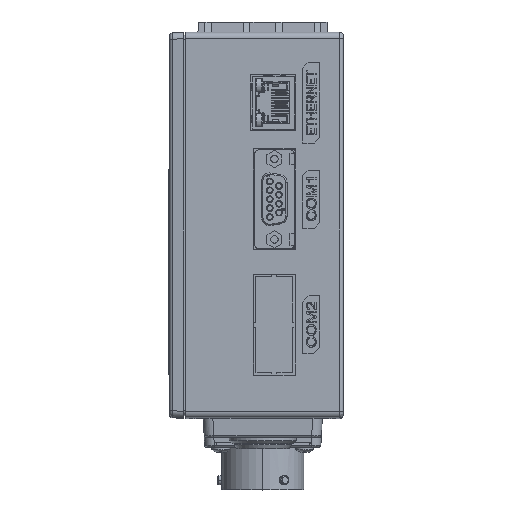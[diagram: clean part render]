
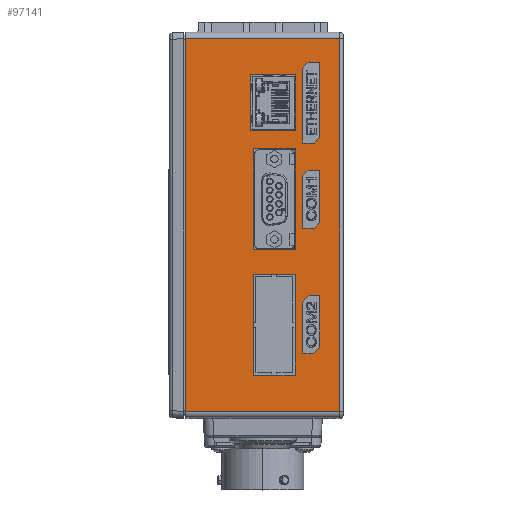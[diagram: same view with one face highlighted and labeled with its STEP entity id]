
A CAD part, top view. The second image highlights one B-rep face of the part: STEP entity #97141.
In plain terms, the highlighted planar face has unit normal (0, 0, 1).
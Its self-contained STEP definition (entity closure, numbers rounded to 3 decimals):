
#6719=DIRECTION('',(0.,-1.,0.));
#6720=VECTOR('',#6719,116.);
#6721=CARTESIAN_POINT('',(26.,58.,0.));
#6722=LINE('',#6721,#6720);
#6723=DIRECTION('',(1.,0.,0.));
#6724=VECTOR('',#6723,48.);
#6725=CARTESIAN_POINT('',(-22.,-58.,0.));
#6726=LINE('',#6725,#6724);
#6727=DIRECTION('',(0.,1.,0.));
#6728=VECTOR('',#6727,116.);
#6729=CARTESIAN_POINT('',(-22.,-58.,0.));
#6730=LINE('',#6729,#6728);
#6731=DIRECTION('',(-1.,0.,0.));
#6732=VECTOR('',#6731,48.);
#6733=CARTESIAN_POINT('',(26.,58.,0.));
#6734=LINE('',#6733,#6732);
#6735=DIRECTION('',(0.,1.,0.));
#6736=VECTOR('',#6735,31.4);
#6737=CARTESIAN_POINT('',(-0.9,-46.7,0.));
#6738=LINE('',#6737,#6736);
#6739=DIRECTION('',(-1.,0.,0.));
#6740=VECTOR('',#6739,13.);
#6741=CARTESIAN_POINT('',(12.1,-46.7,0.));
#6742=LINE('',#6741,#6740);
#6743=DIRECTION('',(0.,-1.,0.));
#6744=VECTOR('',#6743,31.4);
#6745=CARTESIAN_POINT('',(12.1,-15.3,0.));
#6746=LINE('',#6745,#6744);
#6747=DIRECTION('',(1.,0.,0.));
#6748=VECTOR('',#6747,13.);
#6749=CARTESIAN_POINT('',(-0.9,-15.3,0.));
#6750=LINE('',#6749,#6748);
#6751=DIRECTION('',(0.,1.,0.));
#6752=VECTOR('',#6751,31.4);
#6753=CARTESIAN_POINT('',(-0.9,-7.7,0.));
#6754=LINE('',#6753,#6752);
#6755=DIRECTION('',(-1.,0.,0.));
#6756=VECTOR('',#6755,13.);
#6757=CARTESIAN_POINT('',(12.1,-7.7,0.));
#6758=LINE('',#6757,#6756);
#6759=DIRECTION('',(0.,-1.,0.));
#6760=VECTOR('',#6759,31.4);
#6761=CARTESIAN_POINT('',(12.1,23.7,0.));
#6762=LINE('',#6761,#6760);
#6763=DIRECTION('',(1.,0.,0.));
#6764=VECTOR('',#6763,13.);
#6765=CARTESIAN_POINT('',(-0.9,23.7,0.));
#6766=LINE('',#6765,#6764);
#6767=DIRECTION('',(1.,0.,0.));
#6768=VECTOR('',#6767,13.9);
#6769=CARTESIAN_POINT('',(-1.8,46.7,0.));
#6770=LINE('',#6769,#6768);
#6771=DIRECTION('',(0.,1.,0.));
#6772=VECTOR('',#6771,17.4);
#6773=CARTESIAN_POINT('',(-1.8,29.3,0.));
#6774=LINE('',#6773,#6772);
#6775=DIRECTION('',(-1.,0.,0.));
#6776=VECTOR('',#6775,13.9);
#6777=CARTESIAN_POINT('',(12.1,29.3,0.));
#6778=LINE('',#6777,#6776);
#6779=DIRECTION('',(0.,-1.,0.));
#6780=VECTOR('',#6779,17.4);
#6781=CARTESIAN_POINT('',(12.1,46.7,0.));
#6782=LINE('',#6781,#6780);
#6783=DIRECTION('',(1.,0.,0.));
#6784=VECTOR('',#6783,3.7);
#6785=CARTESIAN_POINT('',(14.4,-1.,0.));
#6786=LINE('',#6785,#6784);
#6787=DIRECTION('',(0.,1.,0.));
#6788=VECTOR('',#6787,16.3);
#6789=CARTESIAN_POINT('',(19.8,0.7,0.));
#6790=LINE('',#6789,#6788);
#6791=DIRECTION('',(-1.,0.,0.));
#6792=VECTOR('',#6791,3.7);
#6793=CARTESIAN_POINT('',(19.8,17.,0.));
#6794=LINE('',#6793,#6792);
#6795=DIRECTION('',(0.,-1.,0.));
#6796=VECTOR('',#6795,16.3);
#6797=CARTESIAN_POINT('',(14.4,15.3,0.));
#6798=LINE('',#6797,#6796);
#6799=DIRECTION('',(1.,0.,0.));
#6800=VECTOR('',#6799,3.7);
#6801=CARTESIAN_POINT('',(14.4,25.5,0.));
#6802=LINE('',#6801,#6800);
#6803=DIRECTION('',(0.,1.,0.));
#6804=VECTOR('',#6803,23.3);
#6805=CARTESIAN_POINT('',(19.8,27.2,0.));
#6806=LINE('',#6805,#6804);
#6807=DIRECTION('',(-1.,0.,0.));
#6808=VECTOR('',#6807,3.7);
#6809=CARTESIAN_POINT('',(19.8,50.5,0.));
#6810=LINE('',#6809,#6808);
#6811=DIRECTION('',(0.,-1.,0.));
#6812=VECTOR('',#6811,23.3);
#6813=CARTESIAN_POINT('',(14.4,48.8,0.));
#6814=LINE('',#6813,#6812);
#6815=DIRECTION('',(-1.,0.,0.));
#6816=VECTOR('',#6815,3.4);
#6817=CARTESIAN_POINT('',(19.8,-22.,0.));
#6818=LINE('',#6817,#6816);
#6819=DIRECTION('',(0.,-1.,0.));
#6820=VECTOR('',#6819,16.);
#6821=CARTESIAN_POINT('',(14.4,-24.,0.));
#6822=LINE('',#6821,#6820);
#6823=DIRECTION('',(1.,0.,0.));
#6824=VECTOR('',#6823,3.4);
#6825=CARTESIAN_POINT('',(14.4,-40.,0.));
#6826=LINE('',#6825,#6824);
#6827=DIRECTION('',(0.,1.,0.));
#6828=VECTOR('',#6827,16.);
#6829=CARTESIAN_POINT('',(19.8,-38.,0.));
#6830=LINE('',#6829,#6828);
#14594=DIRECTION('',(-0.707,-0.707,0.));
#14595=VECTOR('',#14594,2.404);
#14596=CARTESIAN_POINT('',(19.8,0.7,0.));
#14597=LINE('',#14596,#14595);
#15776=DIRECTION('',(0.707,0.707,0.));
#15777=VECTOR('',#15776,2.828);
#15778=CARTESIAN_POINT('',(14.4,-24.,0.));
#15779=LINE('',#15778,#15777);
#15792=DIRECTION('',(-0.707,-0.707,0.));
#15793=VECTOR('',#15792,2.828);
#15794=CARTESIAN_POINT('',(19.8,-38.,0.));
#15795=LINE('',#15794,#15793);
#15808=DIRECTION('',(0.707,0.707,0.));
#15809=VECTOR('',#15808,2.404);
#15810=CARTESIAN_POINT('',(14.4,15.3,0.));
#15811=LINE('',#15810,#15809);
#15840=DIRECTION('',(0.707,0.707,0.));
#15841=VECTOR('',#15840,2.404);
#15842=CARTESIAN_POINT('',(14.4,48.8,0.));
#15843=LINE('',#15842,#15841);
#15856=DIRECTION('',(-0.707,-0.707,0.));
#15857=VECTOR('',#15856,2.404);
#15858=CARTESIAN_POINT('',(19.8,27.2,0.));
#15859=LINE('',#15858,#15857);
#81631=CARTESIAN_POINT('',(14.4,-40.,0.));
#81633=VERTEX_POINT('',#81631);
#81635=CARTESIAN_POINT('',(19.8,-22.,0.));
#81637=VERTEX_POINT('',#81635);
#81639=CARTESIAN_POINT('',(14.4,-1.,0.));
#81641=VERTEX_POINT('',#81639);
#81643=CARTESIAN_POINT('',(19.8,17.,0.));
#81645=VERTEX_POINT('',#81643);
#81647=CARTESIAN_POINT('',(14.4,25.5,0.));
#81649=VERTEX_POINT('',#81647);
#81651=CARTESIAN_POINT('',(19.8,50.5,0.));
#81653=VERTEX_POINT('',#81651);
#81661=CARTESIAN_POINT('',(14.4,-24.,0.));
#81662=VERTEX_POINT('',#81661);
#81663=CARTESIAN_POINT('',(16.4,-22.,0.));
#81664=VERTEX_POINT('',#81663);
#81669=CARTESIAN_POINT('',(19.8,-38.,0.));
#81670=VERTEX_POINT('',#81669);
#81671=CARTESIAN_POINT('',(17.8,-40.,0.));
#81672=VERTEX_POINT('',#81671);
#81677=CARTESIAN_POINT('',(14.4,15.3,0.));
#81678=VERTEX_POINT('',#81677);
#81679=CARTESIAN_POINT('',(16.1,17.,0.));
#81680=VERTEX_POINT('',#81679);
#81689=CARTESIAN_POINT('',(19.8,0.7,0.));
#81690=VERTEX_POINT('',#81689);
#81691=CARTESIAN_POINT('',(18.1,-1.,0.));
#81692=VERTEX_POINT('',#81691);
#81695=CARTESIAN_POINT('',(19.8,27.2,0.));
#81696=VERTEX_POINT('',#81695);
#81697=CARTESIAN_POINT('',(18.1,25.5,0.));
#81698=VERTEX_POINT('',#81697);
#81701=CARTESIAN_POINT('',(14.4,48.8,0.));
#81702=VERTEX_POINT('',#81701);
#81703=CARTESIAN_POINT('',(16.1,50.5,0.));
#81704=VERTEX_POINT('',#81703);
#81760=CARTESIAN_POINT('',(-22.,-58.,0.));
#81762=VERTEX_POINT('',#81760);
#81763=CARTESIAN_POINT('',(-22.,58.,0.));
#81764=VERTEX_POINT('',#81763);
#81785=CARTESIAN_POINT('',(26.,-58.,0.));
#81786=VERTEX_POINT('',#81785);
#81791=CARTESIAN_POINT('',(26.,58.,0.));
#81792=VERTEX_POINT('',#81791);
#81857=CARTESIAN_POINT('',(-1.8,46.7,0.));
#81858=CARTESIAN_POINT('',(12.1,46.7,0.));
#81859=VERTEX_POINT('',#81857);
#81860=VERTEX_POINT('',#81858);
#81861=CARTESIAN_POINT('',(-1.8,29.3,0.));
#81862=VERTEX_POINT('',#81861);
#81863=CARTESIAN_POINT('',(12.1,29.3,0.));
#81864=VERTEX_POINT('',#81863);
#81865=CARTESIAN_POINT('',(-0.9,-7.7,0.));
#81866=CARTESIAN_POINT('',(-0.9,23.7,0.));
#81867=VERTEX_POINT('',#81865);
#81868=VERTEX_POINT('',#81866);
#81869=CARTESIAN_POINT('',(12.1,-7.7,0.));
#81870=VERTEX_POINT('',#81869);
#81871=CARTESIAN_POINT('',(12.1,23.7,0.));
#81872=VERTEX_POINT('',#81871);
#81873=CARTESIAN_POINT('',(-0.9,-46.7,0.));
#81874=CARTESIAN_POINT('',(-0.9,-15.3,0.));
#81875=VERTEX_POINT('',#81873);
#81876=VERTEX_POINT('',#81874);
#81877=CARTESIAN_POINT('',(12.1,-46.7,0.));
#81878=VERTEX_POINT('',#81877);
#81879=CARTESIAN_POINT('',(12.1,-15.3,0.));
#81880=VERTEX_POINT('',#81879);
#97056=CARTESIAN_POINT('',(0.,0.,0.));
#97057=DIRECTION('',(0.,0.,1.));
#97058=DIRECTION('',(1.,0.,0.));
#97059=AXIS2_PLACEMENT_3D('',#97056,#97057,#97058);
#97060=PLANE('',#97059);
#97062=ORIENTED_EDGE('',*,*,#97061,.T.);
#97063=ORIENTED_EDGE('',*,*,#97051,.F.);
#97064=ORIENTED_EDGE('',*,*,#91788,.T.);
#97066=ORIENTED_EDGE('',*,*,#97065,.F.);
#97067=EDGE_LOOP('',(#97062,#97063,#97064,#97066));
#97068=FACE_OUTER_BOUND('',#97067,.F.);
#97070=ORIENTED_EDGE('',*,*,#97069,.F.);
#97072=ORIENTED_EDGE('',*,*,#97071,.F.);
#97074=ORIENTED_EDGE('',*,*,#97073,.F.);
#97076=ORIENTED_EDGE('',*,*,#97075,.F.);
#97077=EDGE_LOOP('',(#97070,#97072,#97074,#97076));
#97078=FACE_BOUND('',#97077,.F.);
#97080=ORIENTED_EDGE('',*,*,#97079,.F.);
#97082=ORIENTED_EDGE('',*,*,#97081,.F.);
#97084=ORIENTED_EDGE('',*,*,#97083,.F.);
#97086=ORIENTED_EDGE('',*,*,#97085,.F.);
#97087=EDGE_LOOP('',(#97080,#97082,#97084,#97086));
#97088=FACE_BOUND('',#97087,.F.);
#97090=ORIENTED_EDGE('',*,*,#97089,.F.);
#97092=ORIENTED_EDGE('',*,*,#97091,.F.);
#97094=ORIENTED_EDGE('',*,*,#97093,.F.);
#97096=ORIENTED_EDGE('',*,*,#97095,.F.);
#97097=EDGE_LOOP('',(#97090,#97092,#97094,#97096));
#97098=FACE_BOUND('',#97097,.F.);
#97100=ORIENTED_EDGE('',*,*,#97099,.T.);
#97102=ORIENTED_EDGE('',*,*,#97101,.F.);
#97104=ORIENTED_EDGE('',*,*,#97103,.T.);
#97106=ORIENTED_EDGE('',*,*,#97105,.T.);
#97108=ORIENTED_EDGE('',*,*,#97107,.F.);
#97110=ORIENTED_EDGE('',*,*,#97109,.T.);
#97111=EDGE_LOOP('',(#97100,#97102,#97104,#97106,#97108,#97110));
#97112=FACE_BOUND('',#97111,.F.);
#97114=ORIENTED_EDGE('',*,*,#97113,.T.);
#97116=ORIENTED_EDGE('',*,*,#97115,.F.);
#97118=ORIENTED_EDGE('',*,*,#97117,.T.);
#97120=ORIENTED_EDGE('',*,*,#97119,.T.);
#97122=ORIENTED_EDGE('',*,*,#97121,.F.);
#97124=ORIENTED_EDGE('',*,*,#97123,.T.);
#97125=EDGE_LOOP('',(#97114,#97116,#97118,#97120,#97122,#97124));
#97126=FACE_BOUND('',#97125,.F.);
#97128=ORIENTED_EDGE('',*,*,#97127,.T.);
#97130=ORIENTED_EDGE('',*,*,#97129,.F.);
#97132=ORIENTED_EDGE('',*,*,#97131,.T.);
#97134=ORIENTED_EDGE('',*,*,#97133,.T.);
#97136=ORIENTED_EDGE('',*,*,#97135,.F.);
#97138=ORIENTED_EDGE('',*,*,#97137,.T.);
#97139=EDGE_LOOP('',(#97128,#97130,#97132,#97134,#97136,#97138));
#97140=FACE_BOUND('',#97139,.F.);
#97141=ADVANCED_FACE('',(#97068,#97078,#97088,#97098,#97112,#97126,#97140),
#97060,.T.);
#91788=EDGE_CURVE('',#81762,#81764,#6730,.T.);
#97051=EDGE_CURVE('',#81762,#81786,#6726,.T.);
#97061=EDGE_CURVE('',#81792,#81786,#6722,.T.);
#97065=EDGE_CURVE('',#81792,#81764,#6734,.T.);
#97069=EDGE_CURVE('',#81875,#81876,#6738,.T.);
#97071=EDGE_CURVE('',#81878,#81875,#6742,.T.);
#97073=EDGE_CURVE('',#81880,#81878,#6746,.T.);
#97075=EDGE_CURVE('',#81876,#81880,#6750,.T.);
#97079=EDGE_CURVE('',#81867,#81868,#6754,.T.);
#97081=EDGE_CURVE('',#81870,#81867,#6758,.T.);
#97083=EDGE_CURVE('',#81872,#81870,#6762,.T.);
#97085=EDGE_CURVE('',#81868,#81872,#6766,.T.);
#97089=EDGE_CURVE('',#81859,#81860,#6770,.T.);
#97091=EDGE_CURVE('',#81862,#81859,#6774,.T.);
#97093=EDGE_CURVE('',#81864,#81862,#6778,.T.);
#97095=EDGE_CURVE('',#81860,#81864,#6782,.T.);
#97099=EDGE_CURVE('',#81641,#81692,#6786,.T.);
#97101=EDGE_CURVE('',#81690,#81692,#14597,.T.);
#97103=EDGE_CURVE('',#81690,#81645,#6790,.T.);
#97105=EDGE_CURVE('',#81645,#81680,#6794,.T.);
#97107=EDGE_CURVE('',#81678,#81680,#15811,.T.);
#97109=EDGE_CURVE('',#81678,#81641,#6798,.T.);
#97113=EDGE_CURVE('',#81649,#81698,#6802,.T.);
#97115=EDGE_CURVE('',#81696,#81698,#15859,.T.);
#97117=EDGE_CURVE('',#81696,#81653,#6806,.T.);
#97119=EDGE_CURVE('',#81653,#81704,#6810,.T.);
#97121=EDGE_CURVE('',#81702,#81704,#15843,.T.);
#97123=EDGE_CURVE('',#81702,#81649,#6814,.T.);
#97127=EDGE_CURVE('',#81637,#81664,#6818,.T.);
#97129=EDGE_CURVE('',#81662,#81664,#15779,.T.);
#97131=EDGE_CURVE('',#81662,#81633,#6822,.T.);
#97133=EDGE_CURVE('',#81633,#81672,#6826,.T.);
#97135=EDGE_CURVE('',#81670,#81672,#15795,.T.);
#97137=EDGE_CURVE('',#81670,#81637,#6830,.T.);
